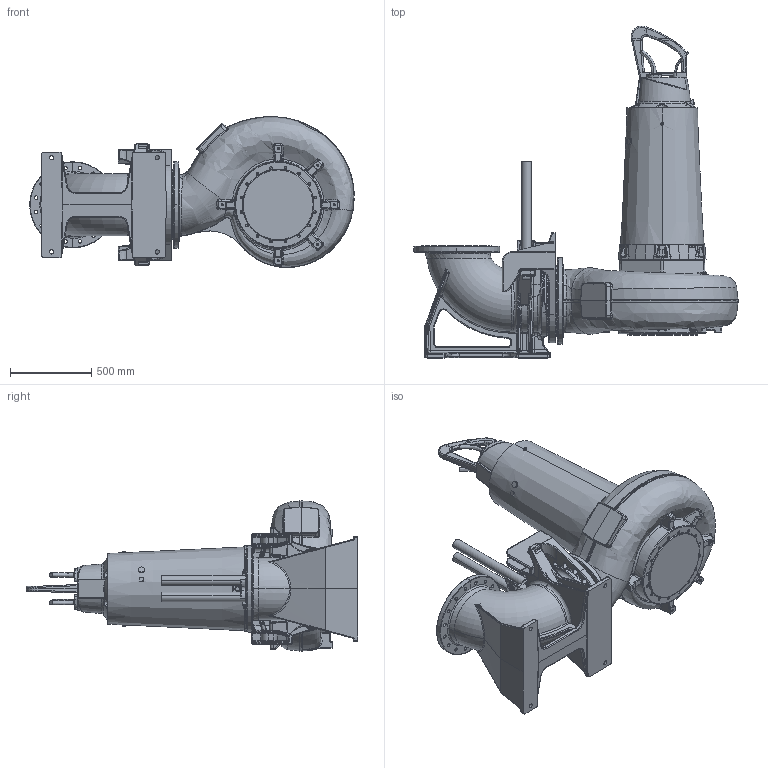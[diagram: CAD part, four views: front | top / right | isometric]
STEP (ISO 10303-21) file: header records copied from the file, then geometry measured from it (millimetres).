
FILE_DESCRIPTION (( 'STEP AP214' ), '1' );
FILE_NAME ('PE5_XFP351M-CH3_WET 2guide_A_NG2.STEP', '2017-03-14T07:50:58', ( '' ), ( '' ), 'SwSTEP 2.0', 'SolidWorks 2017', '' );
FILE_SCHEMA (( 'AUTOMOTIVE_DESIGN' ));
Length unit declared in the file: millimetre
Products named in the file (1): PE5_XFP351M-CH3_WET 2guide_A_NG2
Bounding box: 1998.47 x 2043.4 x 929.69 mm (x, y, z)
Volume: 591510243.5 mm3; surface area: 9764890.5 mm2
Topology: 4 solids, 4 shells, 3648 faces, 9155 edges, 5396 vertices
Faces by surface type: bspline 1145, cylinder 1114, plane 690, torus 323, cone 245, sphere 131
Entity records: 249615 total; most frequent: CARTESIAN_POINT 132742, ORIENTED_EDGE 17890, DIRECTION 13775, EDGE_CURVE 8945, AXIS2_PLACEMENT_3D 5499, VERTEX_POINT 5390, EDGE_LOOP 3853, UNCERTAINTY_MEASURE_WITH_UNIT 3654
